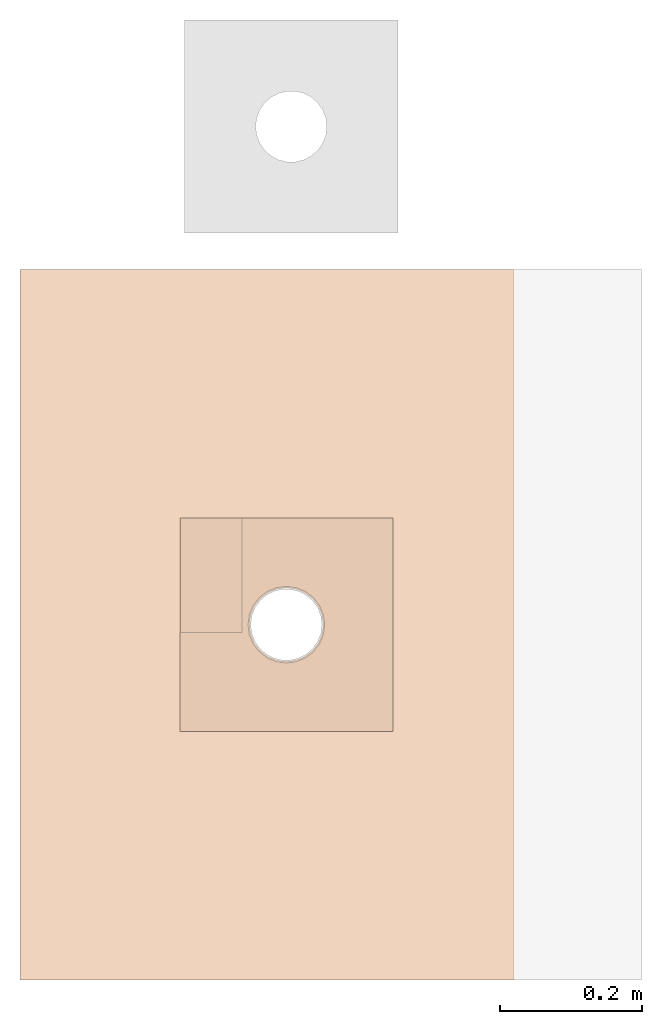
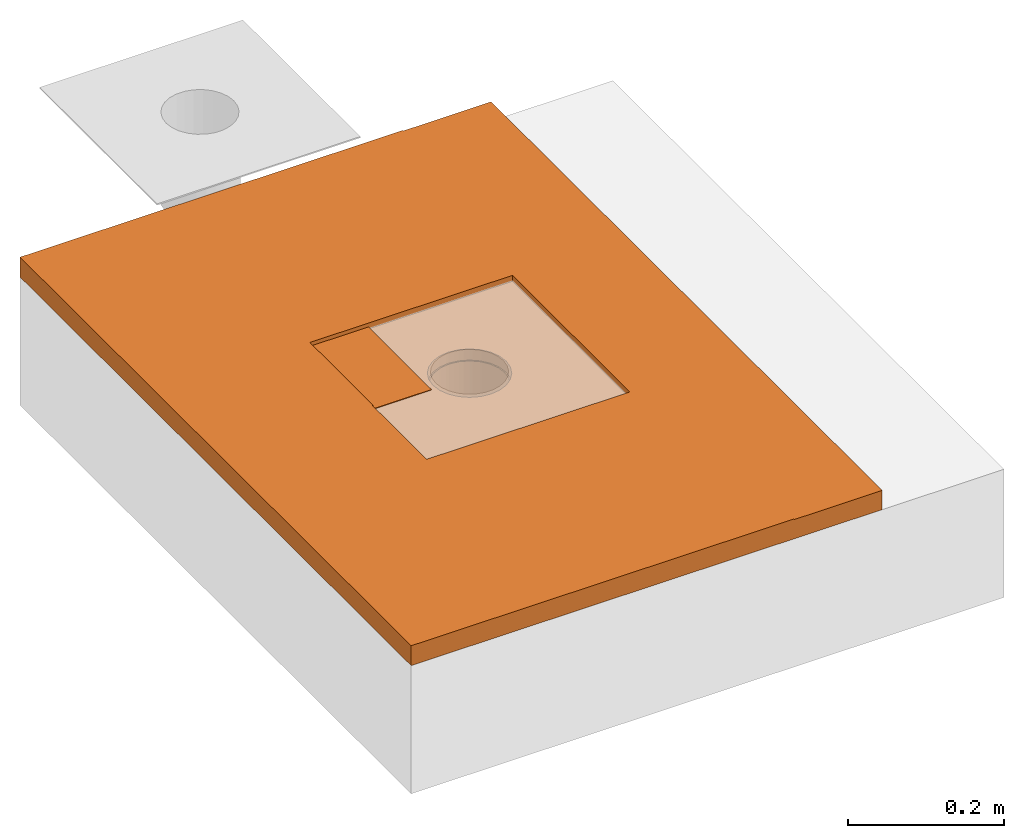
# One storey, part 3 of 3: 1 proxy.
"""IFC2X3 building model written with IfcOpenShell, lengths in metres."""

from ifc_helpers import new_model, entity, si_unit, converted_unit, derived_unit, direction, frame, origin, place, context, subcontext, project, spatial, faceted_brep, source, transform, mapped, material, material_list, type_object, type_shapes, element, save


model = new_model("IFC2X3")

# Units and contexts
model_context = context("Model", 3, precision=1e-05, world=origin(), true_north=direction((6.123031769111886e-17, 1.0)))
body_context = subcontext(model_context, "Body", "Model", "MODEL_VIEW")
ifc_project = project(units=[si_unit("LENGTHUNIT", "METRE"), si_unit("AREAUNIT", "SQUARE_METRE"), si_unit("VOLUMEUNIT", "CUBIC_METRE"), converted_unit("PLANEANGLEUNIT", "DEGREE", entity("IfcRatioMeasure", 0.017453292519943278), si_unit("PLANEANGLEUNIT", "RADIAN"), dimensions=[0, 0, 0, 0, 0, 0, 0]), si_unit("MASSUNIT", "GRAM", prefix="KILO"), derived_unit("MASSDENSITYUNIT", [(si_unit("MASSUNIT", "GRAM", prefix="KILO"), 1), (si_unit("LENGTHUNIT", "METRE"), -3)]), derived_unit("IONCONCENTRATIONUNIT", [(si_unit("MASSUNIT", "GRAM", prefix="KILO"), 1), (si_unit("LENGTHUNIT", "METRE"), -3)]), derived_unit("MOMENTOFINERTIAUNIT", [(si_unit("LENGTHUNIT", "METRE"), 4)]), si_unit("TIMEUNIT", "SECOND"), si_unit("FREQUENCYUNIT", "HERTZ"), si_unit("THERMODYNAMICTEMPERATUREUNIT", "DEGREE_CELSIUS"), derived_unit("THERMALTRANSMITTANCEUNIT", [(si_unit("MASSUNIT", "GRAM", prefix="KILO"), 1), (si_unit("THERMODYNAMICTEMPERATUREUNIT", "KELVIN"), -1), (si_unit("TIMEUNIT", "SECOND"), -3)]), derived_unit("THERMALCONDUCTANCEUNIT", [(si_unit("MASSUNIT", "GRAM", prefix="KILO"), 1), (si_unit("THERMODYNAMICTEMPERATUREUNIT", "KELVIN"), -1), (si_unit("TIMEUNIT", "SECOND"), -3), (si_unit("LENGTHUNIT", "METRE"), 1)]), derived_unit("VOLUMETRICFLOWRATEUNIT", [(si_unit("LENGTHUNIT", "METRE"), 3), (si_unit("TIMEUNIT", "SECOND"), -1)]), derived_unit("MASSFLOWRATEUNIT", [(si_unit("MASSUNIT", "GRAM", prefix="KILO"), 1), (si_unit("TIMEUNIT", "SECOND"), -1)]), derived_unit("ROTATIONALFREQUENCYUNIT", [(si_unit("TIMEUNIT", "SECOND"), -1)]), si_unit("ELECTRICCURRENTUNIT", "AMPERE"), si_unit("ELECTRICVOLTAGEUNIT", "VOLT"), si_unit("POWERUNIT", "WATT"), si_unit("FORCEUNIT", "NEWTON", prefix="KILO"), si_unit("ILLUMINANCEUNIT", "LUX"), si_unit("LUMINOUSFLUXUNIT", "LUMEN"), si_unit("LUMINOUSINTENSITYUNIT", "CANDELA"), derived_unit("USERDEFINED", [(si_unit("MASSUNIT", "GRAM", prefix="KILO"), -1), (si_unit("LENGTHUNIT", "METRE"), -2), (si_unit("TIMEUNIT", "SECOND"), 3), (si_unit("LUMINOUSFLUXUNIT", "LUMEN"), 1)]), derived_unit("USERDEFINED", [(si_unit("MASSUNIT", "GRAM", prefix="KILO"), 1), (si_unit("TIMEUNIT", "SECOND"), -3), (si_unit("LENGTHUNIT", "METRE"), 3), (si_unit("ELECTRICCURRENTUNIT", "AMPERE"), -2)]), derived_unit("SOUNDPOWERUNIT", [(si_unit("MASSUNIT", "GRAM", prefix="KILO"), 1), (si_unit("TIMEUNIT", "SECOND"), -3), (si_unit("LENGTHUNIT", "METRE"), 2)]), derived_unit("SOUNDPRESSUREUNIT", [(si_unit("MASSUNIT", "GRAM", prefix="KILO"), 1), (si_unit("LENGTHUNIT", "METRE"), -1), (si_unit("TIMEUNIT", "SECOND"), -2)]), derived_unit("LINEARVELOCITYUNIT", [(si_unit("LENGTHUNIT", "METRE"), 1), (si_unit("TIMEUNIT", "SECOND"), -1)]), si_unit("PRESSUREUNIT", "PASCAL"), derived_unit("USERDEFINED", [(si_unit("MASSUNIT", "GRAM", prefix="KILO"), 1), (si_unit("LENGTHUNIT", "METRE"), -2), (si_unit("TIMEUNIT", "SECOND"), -2)]), derived_unit("LINEARFORCEUNIT", [(si_unit("MASSUNIT", "GRAM", prefix="KILO"), 1), (si_unit("TIMEUNIT", "SECOND"), -2)]), derived_unit("PLANARFORCEUNIT", [(si_unit("MASSUNIT", "GRAM", prefix="KILO"), 1), (si_unit("LENGTHUNIT", "METRE"), -1), (si_unit("TIMEUNIT", "SECOND"), -2)]), derived_unit("SPECIFICHEATCAPACITYUNIT", [(si_unit("THERMODYNAMICTEMPERATUREUNIT", "KELVIN"), -1), (si_unit("LENGTHUNIT", "METRE"), 2), (si_unit("TIMEUNIT", "SECOND"), -2)]), derived_unit("HEATINGVALUEUNIT", [(si_unit("LENGTHUNIT", "METRE"), 2), (si_unit("TIMEUNIT", "SECOND"), -2)]), derived_unit("VAPORPERMEABILITYUNIT", [(si_unit("LENGTHUNIT", "METRE"), -1), (si_unit("TIMEUNIT", "SECOND"), 1)]), derived_unit("DYNAMICVISCOSITYUNIT", [(si_unit("MASSUNIT", "GRAM", prefix="KILO"), 1), (si_unit("TIMEUNIT", "SECOND"), -1), (si_unit("LENGTHUNIT", "METRE"), -1)]), derived_unit("THERMALEXPANSIONCOEFFICIENTUNIT", [(si_unit("THERMODYNAMICTEMPERATUREUNIT", "KELVIN"), -1)]), derived_unit("MODULUSOFELASTICITYUNIT", [(si_unit("MASSUNIT", "GRAM", prefix="KILO"), 1), (si_unit("LENGTHUNIT", "METRE"), -1), (si_unit("TIMEUNIT", "SECOND"), -2)]), derived_unit("ISOTHERMALMOISTURECAPACITYUNIT", [(si_unit("LENGTHUNIT", "METRE"), 3), (si_unit("MASSUNIT", "GRAM", prefix="KILO"), -1)]), derived_unit("MOISTUREDIFFUSIVITYUNIT", [(si_unit("TIMEUNIT", "SECOND"), -1), (si_unit("LENGTHUNIT", "METRE"), 2)])], contexts=[model_context])

# Site, building, storey
site_placement = place(None, origin())
site = spatial("IfcSite", under=ifc_project, at=site_placement, Name="Default", CompositionType="ELEMENT")
building_placement = place(site_placement, origin())
building = spatial("IfcBuilding", under=site, at=building_placement, CompositionType="ELEMENT")
storey_placement = place(building_placement, frame((0.0, 0.0, -0.0025237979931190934)))
storey = spatial("IfcBuildingStorey", under=building, at=storey_placement, Name="ARQ Térreo", CompositionType="ELEMENT", Elevation=-0.0025237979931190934)

# Proxy
ifc_material_1 = material(Name="#Impermeabilização")
ifc_material_2 = material(Name="Plástico")
ifc_material_3 = material(Name="#argamassa")
ifc_material_list = material_list([ifc_material_1, ifc_material_2, ifc_material_3])
building_element_proxy_type = type_object("IfcBuildingElementProxyType", Name="IMPER:IMPER", PredefinedType="NOTDEFINED", material=ifc_material_list)
shared_shape = source(origin(), body_context, "Body", "Brep", [
    faceted_brep([(0.2258540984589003, 0.48897795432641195, 0.3694349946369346), (0.22485409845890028, 0.48897795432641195, 0.3694349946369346), (0.22485409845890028, 0.48897795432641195, 0.3624128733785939), (0.31235992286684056, 0.48897795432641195, 0.3624128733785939), (0.31235992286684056, 0.48897795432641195, 0.36341287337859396), (0.2258540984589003, 0.48897795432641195, 0.36341287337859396), (0.2258540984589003, 0.6500658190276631, 0.3694349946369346), (0.2258540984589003, 0.6500658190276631, 0.36341287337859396), (0.31235992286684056, 0.6500658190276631, 0.36341287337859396), (0.31235992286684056, 0.6500658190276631, 0.3624128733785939), (0.22485409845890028, 0.6500658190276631, 0.3624128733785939), (0.22485409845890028, 0.6500658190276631, 0.3694349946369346)], [[[0, 1, 2, 3, 4, 5]], [[6, 7, 8, 9, 10, 11]], [[1, 0, 6, 11]], [[2, 1, 11, 10]], [[3, 2, 10, 9]], [[4, 3, 9, 8]], [[5, 4, 8, 7]], [[0, 5, 7, 6]]]),
    faceted_brep([(0.34785409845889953, 0.5468311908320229, 0.34300510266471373), (0.33667033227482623, 0.5382495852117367, 0.34300510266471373), (0.3488540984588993, 0.5450991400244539, 0.34300510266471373), (0.361395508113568, 0.5502939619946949, 0.34300510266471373), (0.3608778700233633, 0.5522258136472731, 0.34300510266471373), (0.33808454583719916, 0.5368353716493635, 0.34300510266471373), (0.3280887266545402, 0.527065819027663, 0.34300510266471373), (0.329820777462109, 0.5260658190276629, 0.34300510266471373), (0.3246259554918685, 0.5135244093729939, 0.34300510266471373), (0.3226941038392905, 0.5140420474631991, 0.34300510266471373), (0.32285409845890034, 0.5000658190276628, 0.34300510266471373), (0.3208540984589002, 0.5000658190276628, 0.34300510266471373), (0.324625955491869, 0.4866072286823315, 0.34300510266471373), (0.32269410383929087, 0.4860895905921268, 0.34300510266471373), (0.3298207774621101, 0.47406581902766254, 0.34300510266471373), (0.32808872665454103, 0.47306581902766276, 0.34300510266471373), (0.33808454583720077, 0.46329626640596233, 0.34300510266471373), (0.33667033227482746, 0.4618820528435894, 0.34300510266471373), (0.3488540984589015, 0.4550324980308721, 0.34300510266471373), (0.34785409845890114, 0.4533004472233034, 0.34300510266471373), (0.36139550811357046, 0.44983767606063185, 0.34300510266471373), (0.3608778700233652, 0.44790582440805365, 0.34300510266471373), (0.37485409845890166, 0.44806581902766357, 0.34300510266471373), (0.3748540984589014, 0.44606581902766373, 0.34300510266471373), (0.3883126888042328, 0.4498376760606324, 0.34300510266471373), (0.38883032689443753, 0.4479058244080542, 0.34300510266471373), (0.4008540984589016, 0.4550324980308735, 0.34300510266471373), (0.4018540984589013, 0.4533004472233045, 0.34300510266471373), (0.41162365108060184, 0.4632962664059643, 0.34300510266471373), (0.41303786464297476, 0.4618820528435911, 0.34300510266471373), (0.4198874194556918, 0.4740658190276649, 0.34300510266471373), (0.42161947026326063, 0.47306581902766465, 0.34300510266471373), (0.4270140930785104, 0.4860895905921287, 0.34300510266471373), (0.4250822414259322, 0.4866072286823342, 0.34300510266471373), (0.4288540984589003, 0.500065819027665, 0.34300510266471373), (0.42685409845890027, 0.5000658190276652, 0.34300510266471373), (0.42701409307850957, 0.514042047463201, 0.34300510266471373), (0.42508224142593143, 0.5135244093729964, 0.34300510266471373), (0.4216194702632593, 0.5270658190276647, 0.34300510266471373), (0.41988741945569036, 0.526065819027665, 0.34300510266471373), (0.413037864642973, 0.5382495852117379, 0.34300510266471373), (0.4116236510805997, 0.5368353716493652, 0.34300510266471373), (0.4018540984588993, 0.5468311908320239, 0.34300510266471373), (0.40085409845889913, 0.5450991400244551, 0.34300510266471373), (0.38883032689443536, 0.5522258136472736, 0.34300510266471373), (0.38831268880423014, 0.5502939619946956, 0.34300510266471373), (0.37485409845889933, 0.5540658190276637, 0.34300510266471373), (0.37485409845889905, 0.5520658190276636, 0.34300510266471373), (0.34785409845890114, 0.4533004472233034, 0.0), (0.33667033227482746, 0.4618820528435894, 0.0), (0.3488540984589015, 0.4550324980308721, 0.0), (0.36139550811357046, 0.44983767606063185, 0.0), (0.3608778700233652, 0.44790582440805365, 0.0), (0.33808454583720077, 0.46329626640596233, 0.0), (0.32808872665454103, 0.47306581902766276, 0.0), (0.3298207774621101, 0.47406581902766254, 0.0), (0.324625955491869, 0.4866072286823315, 0.0), (0.32269410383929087, 0.4860895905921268, 0.0), (0.32285409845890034, 0.5000658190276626, 0.0), (0.3208540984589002, 0.5000658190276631, 0.0), (0.3246259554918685, 0.5135244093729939, 0.0), (0.3226941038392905, 0.5140420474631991, 0.0), (0.329820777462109, 0.5260658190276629, 0.0), (0.3280887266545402, 0.527065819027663, 0.0), (0.33808454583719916, 0.5368353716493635, 0.0), (0.33667033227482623, 0.5382495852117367, 0.0), (0.3488540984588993, 0.5450991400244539, 0.0), (0.34785409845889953, 0.5468311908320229, 0.0), (0.361395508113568, 0.5502939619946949, 0.0), (0.3608778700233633, 0.5522258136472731, 0.0), (0.37485409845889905, 0.5520658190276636, 0.0), (0.37485409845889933, 0.5540658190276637, 0.0), (0.38831268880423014, 0.5502939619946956, 0.0), (0.38883032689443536, 0.5522258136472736, 0.0), (0.40085409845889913, 0.5450991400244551, 0.0), (0.4018540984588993, 0.5468311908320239, 0.0), (0.4116236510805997, 0.5368353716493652, 0.0), (0.413037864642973, 0.5382495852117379, 0.0), (0.41988741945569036, 0.526065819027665, 0.0), (0.4216194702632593, 0.5270658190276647, 0.0), (0.42701409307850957, 0.514042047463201, 0.0), (0.42508224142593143, 0.5135244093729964, 0.0), (0.4288540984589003, 0.500065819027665, 0.0), (0.42685409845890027, 0.5000658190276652, 0.0), (0.4270140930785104, 0.4860895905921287, 0.0), (0.4250822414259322, 0.4866072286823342, 0.0), (0.42161947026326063, 0.47306581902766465, 0.0), (0.4198874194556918, 0.4740658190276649, 0.0), (0.41303786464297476, 0.4618820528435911, 0.0), (0.41162365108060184, 0.4632962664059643, 0.0), (0.4018540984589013, 0.4533004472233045, 0.0), (0.4008540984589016, 0.4550324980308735, 0.0), (0.38883032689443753, 0.4479058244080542, 0.0), (0.3883126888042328, 0.4498376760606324, 0.0), (0.3748540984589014, 0.44606581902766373, 0.0), (0.37485409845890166, 0.44806581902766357, 0.0)], [[[0, 1, 2]], [[0, 2, 3]], [[3, 4, 0]], [[2, 1, 5]], [[6, 5, 1]], [[5, 6, 7]], [[7, 6, 8]], [[9, 8, 6]], [[9, 10, 8]], [[10, 9, 11]], [[12, 10, 11]], [[11, 13, 12]], [[12, 13, 14]], [[15, 14, 13]], [[14, 15, 16]], [[16, 15, 17]], [[18, 16, 17]], [[17, 19, 18]], [[18, 19, 20]], [[21, 20, 19]], [[20, 21, 22]], [[22, 21, 23]], [[22, 23, 24]], [[24, 23, 25]], [[24, 25, 26]], [[27, 26, 25]], [[28, 26, 27]], [[28, 27, 29]], [[29, 30, 28]], [[31, 30, 29]], [[30, 31, 32]], [[32, 33, 30]], [[34, 33, 32]], [[34, 35, 33]], [[36, 35, 34]], [[36, 37, 35]], [[37, 36, 38]], [[38, 39, 37]], [[39, 38, 40]], [[39, 40, 41]], [[40, 42, 41]], [[43, 41, 42]], [[43, 42, 44]], [[44, 45, 43]], [[46, 45, 44]], [[4, 47, 46]], [[46, 47, 45]], [[4, 3, 47]], [[48, 49, 50]], [[48, 50, 51]], [[51, 52, 48]], [[50, 49, 53]], [[54, 53, 49]], [[53, 54, 55]], [[55, 54, 56]], [[57, 56, 54]], [[57, 58, 56]], [[58, 57, 59]], [[60, 58, 59]], [[59, 61, 60]], [[60, 61, 62]], [[63, 62, 61]], [[62, 63, 64]], [[64, 63, 65]], [[66, 64, 65]], [[65, 67, 66]], [[66, 67, 68]], [[69, 68, 67]], [[68, 69, 70]], [[70, 69, 71]], [[70, 71, 72]], [[72, 71, 73]], [[72, 73, 74]], [[75, 74, 73]], [[76, 74, 75]], [[76, 75, 77]], [[77, 78, 76]], [[79, 78, 77]], [[78, 79, 80]], [[80, 81, 78]], [[82, 81, 80]], [[82, 83, 81]], [[84, 83, 82]], [[84, 85, 83]], [[85, 84, 86]], [[86, 87, 85]], [[87, 86, 88]], [[87, 88, 89]], [[88, 90, 89]], [[91, 89, 90]], [[91, 90, 92]], [[92, 93, 91]], [[94, 93, 92]], [[52, 95, 94]], [[94, 95, 93]], [[52, 51, 95]], [[33, 35, 83, 85]], [[33, 85, 87, 30]], [[26, 28, 89, 91]], [[89, 28, 30, 87]], [[24, 26, 91, 93]], [[93, 95, 22, 24]], [[18, 20, 51, 50]], [[18, 50, 53, 16]], [[12, 14, 55, 56]], [[55, 14, 16, 53]], [[10, 12, 56, 58]], [[22, 95, 51, 20]], [[8, 10, 58, 60]], [[8, 60, 62, 7]], [[2, 5, 64, 66]], [[64, 5, 7, 62]], [[3, 2, 66, 68]], [[68, 70, 47, 3]], [[43, 45, 72, 74]], [[43, 74, 76, 41]], [[37, 39, 78, 81]], [[78, 39, 41, 76]], [[35, 37, 81, 83]], [[47, 70, 72, 45]], [[38, 36, 80, 79]], [[82, 80, 36, 34]], [[75, 42, 40, 77]], [[77, 40, 38, 79]], [[44, 42, 75, 73]], [[73, 71, 46, 44]], [[0, 4, 69, 67]], [[65, 1, 0, 67]], [[9, 6, 63, 61]], [[65, 63, 6, 1]], [[11, 9, 61, 59]], [[69, 4, 46, 71]], [[13, 11, 59, 57]], [[54, 15, 13, 57]], [[19, 17, 49, 48]], [[54, 49, 17, 15]], [[21, 19, 48, 52]], [[52, 94, 23, 21]], [[27, 25, 92, 90]], [[88, 29, 27, 90]], [[32, 31, 86, 84]], [[88, 86, 31, 29]], [[34, 32, 84, 82]], [[92, 25, 23, 94]]]),
    faceted_brep([(0.0, 1.0, 0.3684093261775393), (0.6952748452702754, 1.0, 0.3684093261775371), (0.6952748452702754, 1.0, 0.3384093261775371), (0.0, 1.0, 0.3384093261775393), (0.0, 0.0, 0.3384093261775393), (0.6952748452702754, 0.0, 0.3384093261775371), (0.6952748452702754, 0.0, 0.3684093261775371), (0.0, 0.0, 0.3684093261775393), (0.22485409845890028, 0.6500658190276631, 0.36840932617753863), (0.22485409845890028, 0.3500658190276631, 0.36840932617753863), (0.5248540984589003, 0.3500658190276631, 0.3684093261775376), (0.5248540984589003, 0.6500658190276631, 0.3684093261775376), (0.4018540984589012, 0.5468311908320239, 0.33840932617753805), (0.38883032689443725, 0.5522258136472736, 0.33840932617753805), (0.4130378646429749, 0.5382495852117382, 0.338409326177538), (0.3748540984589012, 0.5540658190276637, 0.3384093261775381), (0.4216194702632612, 0.5270658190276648, 0.338409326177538), (0.42701409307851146, 0.5140420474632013, 0.33840932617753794), (0.4288540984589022, 0.5000658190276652, 0.33840932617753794), (0.4270140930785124, 0.48608959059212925, 0.33840932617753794), (0.4216194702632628, 0.4730658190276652, 0.338409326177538), (0.4130378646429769, 0.46188205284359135, 0.338409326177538), (0.40185409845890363, 0.45330044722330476, 0.33840932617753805), (0.38883032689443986, 0.4479058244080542, 0.33840932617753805), (0.37485409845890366, 0.44606581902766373, 0.3384093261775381), (0.36087787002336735, 0.44790582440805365, 0.3384093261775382), (0.3478540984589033, 0.4533004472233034, 0.3384093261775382), (0.33667033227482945, 0.4618820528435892, 0.33840932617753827), (0.32808872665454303, 0.47306581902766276, 0.33840932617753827), (0.32269410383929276, 0.48608959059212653, 0.33840932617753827), (0.3208540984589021, 0.5000658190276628, 0.33840932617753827), (0.36087787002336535, 0.5522258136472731, 0.3384093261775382), (0.34785409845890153, 0.546831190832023, 0.3384093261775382), (0.33667033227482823, 0.5382495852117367, 0.33840932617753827), (0.32808872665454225, 0.5270658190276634, 0.33840932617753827), (0.32269410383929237, 0.5140420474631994, 0.33840932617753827), (0.5248540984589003, 0.6500658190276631, 0.36033930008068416), (0.22485409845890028, 0.6500658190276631, 0.36033930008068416), (0.22485409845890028, 0.3500658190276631, 0.36033930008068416), (0.5248540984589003, 0.3500658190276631, 0.36033930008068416), (0.3226941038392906, 0.5140420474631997, 0.36033930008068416), (0.3280887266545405, 0.5270658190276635, 0.36033930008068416), (0.3208540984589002, 0.5000658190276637, 0.36033930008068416), (0.3366703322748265, 0.5382495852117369, 0.36033930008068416), (0.3478540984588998, 0.546831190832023, 0.36033930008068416), (0.3608778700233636, 0.5522258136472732, 0.36033930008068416), (0.3748540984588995, 0.5540658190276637, 0.36033930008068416), (0.3888303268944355, 0.5522258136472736, 0.36033930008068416), (0.4018540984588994, 0.5468311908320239, 0.36033930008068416), (0.413037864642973, 0.5382495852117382, 0.36033930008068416), (0.4216194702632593, 0.5270658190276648, 0.36033930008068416), (0.42701409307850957, 0.5140420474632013, 0.36033930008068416), (0.4288540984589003, 0.5000658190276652, 0.36033930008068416), (0.4270140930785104, 0.486089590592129, 0.36033930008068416), (0.4216194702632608, 0.4730658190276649, 0.36033930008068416), (0.4130378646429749, 0.4618820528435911, 0.36033930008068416), (0.40185409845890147, 0.45330044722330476, 0.36033930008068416), (0.3888303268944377, 0.4479058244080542, 0.36033930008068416), (0.3748540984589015, 0.44606581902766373, 0.36033930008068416), (0.36087787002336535, 0.44790582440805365, 0.36033930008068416), (0.3478540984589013, 0.4533004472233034, 0.36033930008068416), (0.33667033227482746, 0.4618820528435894, 0.36033930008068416), (0.32808872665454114, 0.47306581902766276, 0.36033930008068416), (0.32269410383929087, 0.48608959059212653, 0.36033930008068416)], [[[0, 1, 2, 3]], [[4, 5, 6, 7]], [[0, 8, 1]], [[8, 0, 9]], [[7, 9, 0]], [[9, 7, 6]], [[10, 6, 1]], [[6, 10, 9]], [[11, 1, 8]], [[1, 11, 10]], [[2, 1, 6, 5]], [[2, 12, 13]], [[12, 2, 14]], [[2, 13, 15]], [[16, 14, 2]], [[17, 16, 2]], [[18, 17, 2]], [[2, 5, 18]], [[15, 3, 2]], [[19, 18, 5]], [[20, 19, 5]], [[21, 20, 5]], [[5, 22, 21]], [[22, 5, 23]], [[24, 23, 5]], [[5, 4, 24]], [[25, 24, 4]], [[26, 25, 4]], [[4, 27, 26]], [[27, 4, 28]], [[29, 28, 4]], [[30, 29, 4]], [[30, 4, 3]], [[3, 15, 31]], [[3, 31, 32]], [[32, 33, 3]], [[33, 34, 3]], [[34, 35, 3]], [[3, 35, 30]], [[0, 3, 4, 7]], [[36, 11, 8, 37]], [[37, 8, 9, 38]], [[38, 9, 10, 39]], [[39, 10, 11, 36]], [[40, 41, 37]], [[42, 40, 37]], [[43, 37, 41]], [[37, 43, 44]], [[37, 44, 45]], [[37, 45, 46]], [[46, 36, 37]], [[36, 46, 47]], [[36, 47, 48]], [[36, 48, 49]], [[49, 50, 36]], [[51, 36, 50]], [[36, 51, 52]], [[52, 39, 36]], [[39, 52, 53]], [[39, 53, 54]], [[54, 55, 39]], [[56, 39, 55]], [[39, 56, 57]], [[39, 57, 58]], [[38, 39, 58]], [[58, 59, 38]], [[38, 59, 60]], [[38, 60, 61]], [[38, 61, 62]], [[62, 63, 38]], [[63, 42, 38]], [[37, 38, 42]], [[18, 52, 51, 17]], [[17, 51, 50, 16]], [[12, 14, 49, 48]], [[49, 14, 16, 50]], [[13, 12, 48, 47]], [[13, 47, 46, 15]], [[31, 45, 44, 32]], [[32, 44, 43, 33]], [[35, 34, 41, 40]], [[41, 34, 33, 43]], [[30, 35, 40, 42]], [[15, 46, 45, 31]], [[62, 28, 29, 63]], [[63, 29, 30, 42]], [[59, 25, 26, 60]], [[60, 26, 27, 61]], [[61, 27, 28, 62]], [[59, 58, 24, 25]], [[55, 21, 22, 56]], [[56, 22, 23, 57]], [[19, 20, 54, 53]], [[54, 20, 21, 55]], [[19, 53, 52, 18]], [[24, 58, 57, 23]]]),
    faceted_brep([(0.5648540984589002, 1.0, 0.36943499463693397), (0.5648540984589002, 1.0, 0.36840932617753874), (0.0, 1.0, 0.36840932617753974), (0.0, 1.0, 0.36943499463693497), (0.5648540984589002, 0.0, 0.36943499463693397), (0.0, 0.0, 0.36943499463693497), (0.0, 0.0, 0.36840932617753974), (0.5648540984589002, 0.0, 0.36840932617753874), (0.22485409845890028, 0.6500658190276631, 0.3694349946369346), (0.5248540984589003, 0.6500658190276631, 0.369434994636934), (0.5248540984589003, 0.3500658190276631, 0.369434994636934), (0.22485409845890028, 0.3500658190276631, 0.3694349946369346), (0.5248540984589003, 0.6500658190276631, 0.3684093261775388), (0.22485409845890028, 0.6500658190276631, 0.36840932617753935), (0.22485409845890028, 0.3500658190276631, 0.36840932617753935), (0.5248540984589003, 0.3500658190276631, 0.3684093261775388)], [[[0, 1, 2, 3]], [[4, 5, 6, 7]], [[0, 3, 5, 4], [8, 9, 10, 11]], [[1, 0, 4, 7]], [[2, 1, 7, 6], [12, 13, 14, 15]], [[3, 2, 6, 5]], [[12, 9, 8, 13]], [[13, 8, 11, 14]], [[14, 11, 10, 15]], [[9, 12, 15, 10]]]),
])
type_shapes(building_element_proxy_type, [shared_shape])
proxy_placement = place(storey_placement, frame((0.5478103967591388, -1.7380570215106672, -0.3384093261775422)))
element("IfcBuildingElementProxy", 1, at=proxy_placement, inside=storey, type_object=building_element_proxy_type, material=ifc_material_list, Name="IMPER:IMPER:IMPER : IMPER:IMPER", ObjectType="IMPER:IMPER:IMPER : IMPER:IMPER", context=body_context, shape_type="MappedRepresentation", body=[
    mapped(shared_shape, transform((0.0, 0.0, 0.0), scale=1.0)),
])

save(model, "model.ifc")
